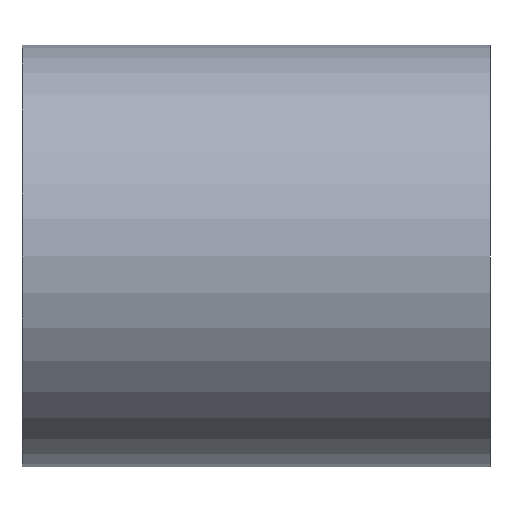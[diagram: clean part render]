
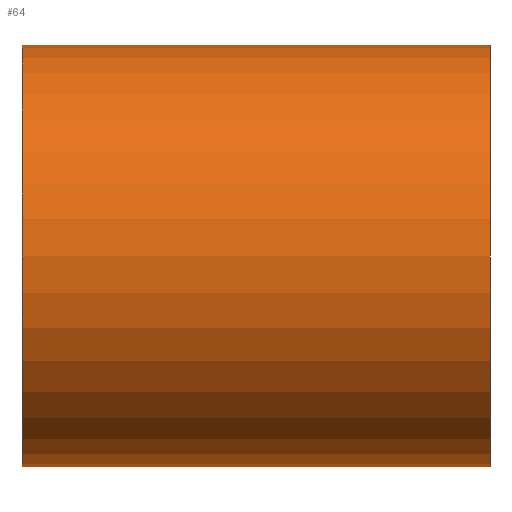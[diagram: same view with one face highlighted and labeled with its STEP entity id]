
A CAD part, front view. The second image highlights one B-rep face of the part: STEP entity #64.
In plain terms, the highlighted cylindrical face has radius 69.85 mm (diameter 139.7 mm), a full revolution.
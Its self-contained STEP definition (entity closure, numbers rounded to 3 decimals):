
#21=FACE_OUTER_BOUND('',#27,.T.);
#27=EDGE_LOOP('',(#54,#55,#56,#57));
#31=LINE('',#134,#33);
#33=VECTOR('',#116,69.85);
#36=CIRCLE('',#94,69.85);
#37=CIRCLE('',#96,69.85);
#40=VERTEX_POINT('',#129);
#41=VERTEX_POINT('',#132);
#45=EDGE_CURVE('',#40,#40,#36,.T.);
#46=EDGE_CURVE('',#41,#41,#37,.T.);
#47=EDGE_CURVE('',#41,#40,#31,.T.);
#54=ORIENTED_EDGE('',*,*,#46,.F.);
#55=ORIENTED_EDGE('',*,*,#47,.T.);
#56=ORIENTED_EDGE('',*,*,#45,.T.);
#57=ORIENTED_EDGE('',*,*,#47,.F.);
#61=CYLINDRICAL_SURFACE('',#95,69.85);
#64=ADVANCED_FACE('',(#21),#61,.T.);
#94=AXIS2_PLACEMENT_3D('',#130,#110,#111);
#95=AXIS2_PLACEMENT_3D('',#131,#112,#113);
#96=AXIS2_PLACEMENT_3D('',#133,#114,#115);
#110=DIRECTION('center_axis',(-1.,0.,0.));
#111=DIRECTION('ref_axis',(0.,0.,1.));
#112=DIRECTION('center_axis',(-1.,0.,0.));
#113=DIRECTION('ref_axis',(0.,1.,0.));
#114=DIRECTION('center_axis',(-1.,0.,0.));
#115=DIRECTION('ref_axis',(0.,0.,1.));
#116=DIRECTION('',(1.,0.,0.));
#129=CARTESIAN_POINT('',(155.,-69.85,0.));
#130=CARTESIAN_POINT('Origin',(155.,0.,0.));
#131=CARTESIAN_POINT('Origin',(77.5,0.,0.));
#132=CARTESIAN_POINT('',(0.,-69.85,0.));
#133=CARTESIAN_POINT('Origin',(0.,0.,
0.));
#134=CARTESIAN_POINT('',(77.5,-69.85,0.));
